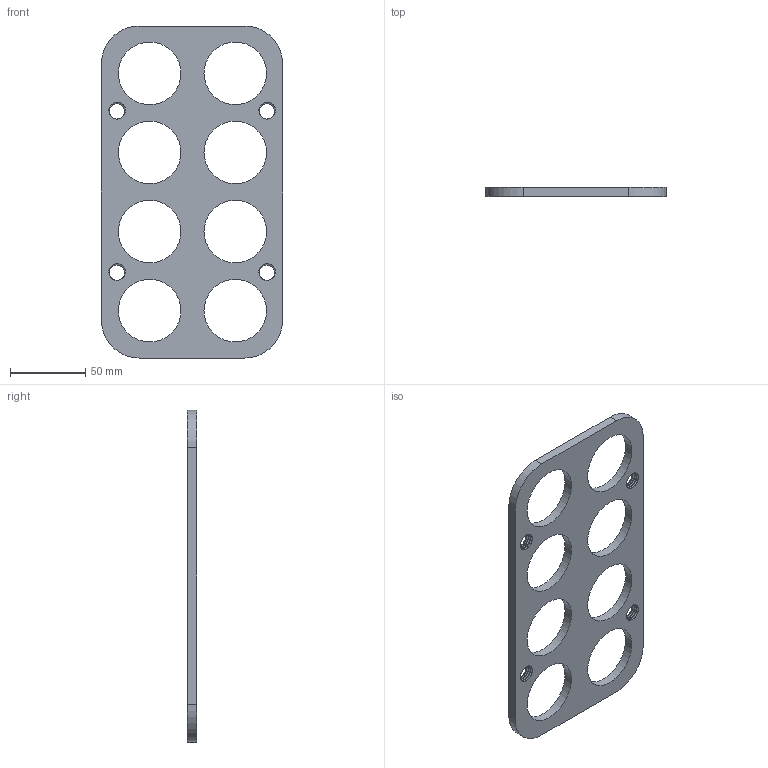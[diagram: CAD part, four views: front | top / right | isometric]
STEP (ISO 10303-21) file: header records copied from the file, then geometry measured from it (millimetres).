
FILE_DESCRIPTION(/* description */ (''),/* implementation_level */ '2;1');
FILE_NAME(/* name */ 'SS pesuri teline v3.step',/* time_stamp */ '2024-11-27T13:47:49+02:00',/* author */ (''),/* organization */ (''),/* preprocessor_version */ 'ST-DEVELOPER v20',/* originating_system */ 'Autodesk Translation Framework v13.20.0.188',/* authorisation */ '');
FILE_SCHEMA (('AUTOMOTIVE_DESIGN { 1 0 10303 214 3 1 1 }'));
Length unit declared in the file: millimetre
Products named in the file (1): SS pesuri teline
Bounding box: 120 x 6 x 220 mm (x, y, z)
Volume: 87936.3 mm3; surface area: 40774.5 mm2
Topology: 1 solids, 1 shells, 62 faces, 180 edges, 120 vertices
Faces by surface type: cylinder 48, bspline 8, plane 6
Full cylindrical faces by diameter (mm): 10.274 x8, 12.226 x12, 41.5 x8
Entity records: 6893 total; most frequent: CARTESIAN_POINT 5331, ORIENTED_EDGE 360, DIRECTION 242, EDGE_CURVE 180, VERTEX_POINT 120, AXIS2_PLACEMENT_3D 95, B_SPLINE_CURVE_WITH_KNOTS 88, EDGE_LOOP 86
